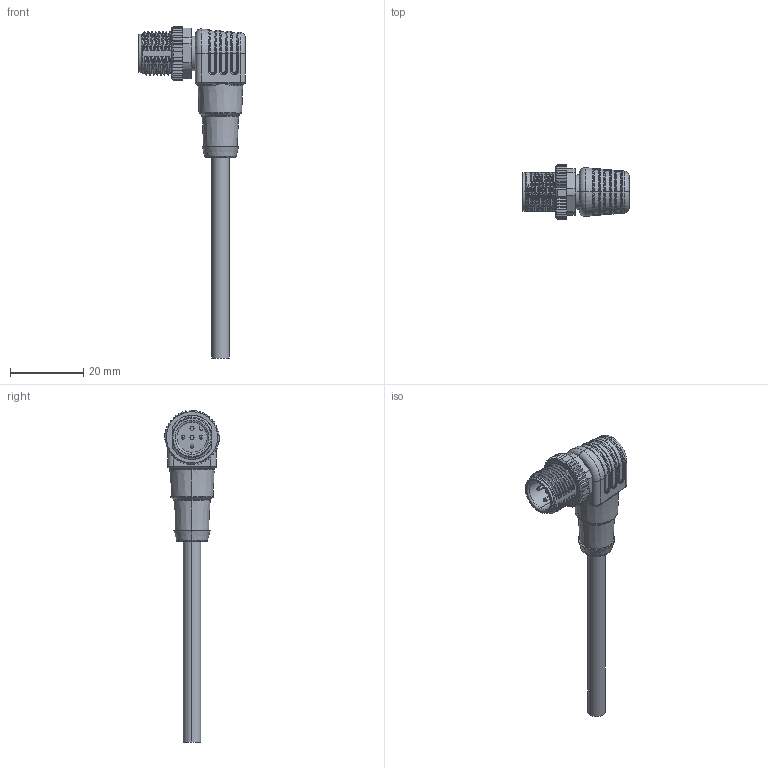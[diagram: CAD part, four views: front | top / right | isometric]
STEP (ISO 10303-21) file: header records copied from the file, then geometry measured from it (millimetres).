
FILE_DESCRIPTION (( 'STEP AP203' ), '1' );
FILE_NAME ('64S501-XXX.STEP', '2023-09-16T07:47:29', ( 'ADMIN' ), ( '' ), 'SwSTEP 2.0', 'SolidWorks 2016', '' );
FILE_SCHEMA (( 'CONFIG_CONTROL_DESIGN' ));
Length unit declared in the file: millimetre
Products named in the file (1): 64S501-XXX
Bounding box: 29.1 x 14.97 x 90.69 mm (x, y, z)
Volume: 6185.6 mm3; surface area: 4496.6 mm2
Topology: 1 solids, 1 shells, 686 faces, 2004 edges, 1295 vertices
Faces by surface type: plane 295, cylinder 156, bspline 118, cone 72, torus 45
Entity records: 42875 total; most frequent: CARTESIAN_POINT 26566, ORIENTED_EDGE 4006, DIRECTION 2559, EDGE_CURVE 2003, VERTEX_POINT 1295, AXIS2_PLACEMENT_3D 954, B_SPLINE_CURVE_WITH_KNOTS 918, EDGE_LOOP 734
